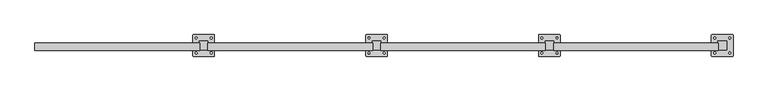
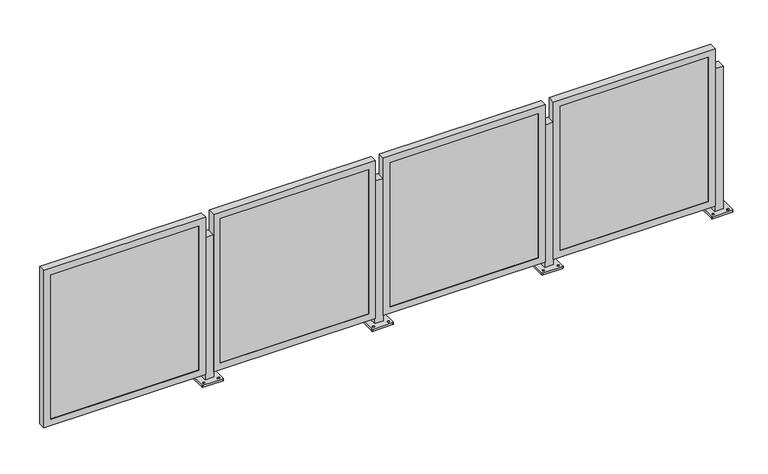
"""IFC4 building model written with IfcOpenShell, lengths in millimetres: railing geometry, Railing - Amico Architectural - Perforated Railing - Apex03."""

from ifc_helpers import new_model, si_unit, frame, origin, place, context, project, spatial, polyline, circle_curve, outline, extrude, faceted_brep, source, transform, mapped, element, save
from ifc_brep_helpers import plane_surface, cylinder_surface, revolved_surface, advanced_brep


def railing_f31c3002(model_context):
    return source(origin(), model_context, "Body", "SolidModel", [
        advanced_brep(
        [(-18869.5891671, -9669.5402105, 914.4), (-18869.5891671, -9720.3402105, 914.4), (-18818.7891671, -9720.3402105, 914.4), (-18818.7891671, -9669.5402105, 914.4), (-18907.6891672, -9755.2651694, 0.0), (-18907.6891672, -9634.6152515, 0.0), (-18904.5141391, -9631.4402233, 0.0), (-18783.8641951, -9631.4402233, 0.0), (-18780.6891669, -9634.6152515, 0.0), (-18780.6891669, -9755.2651694, 0.0), (-18783.8641951, -9758.4401976, 0.0), (-18904.5141391, -9758.4401976, 0.0), (-18888.6391546, -9744.9464651, 0.0), (-18888.6391546, -9733.8339526, 0.0), (-18888.6391655, -9656.0464607, 0.0), (-18888.6391655, -9644.9339791, 0.0), (-18799.7391536, -9744.9464636, 0.0), (-18799.7391536, -9733.8339529, 0.0), (-18799.7391646, -9656.0464592, 0.0), (-18799.7391646, -9644.9339794, 0.0), (-18869.5891671, -9669.5402105, 12.7), (-18869.5891671, -9720.3402105, 12.7), (-18818.7891671, -9720.3402105, 12.7), (-18818.7891671, -9669.5402105, 12.7), (-18907.6891672, -9755.2651694, 12.7), (-18904.5141391, -9758.4401976, 12.7), (-18783.8641951, -9758.4401976, 12.7), (-18780.6891669, -9755.2651694, 12.7), (-18780.6891669, -9634.6152515, 12.7), (-18783.8641951, -9631.4402233, 12.7), (-18904.5141391, -9631.4402233, 12.7), (-18907.6891672, -9634.6152515, 12.7), (-18888.6391546, -9744.9464651, 12.7), (-18888.6391546, -9733.8339526, 12.7), (-18888.6391655, -9656.0464607, 12.7), (-18888.6391655, -9644.9339791, 12.7), (-18799.7391536, -9744.9464636, 12.7), (-18799.7391536, -9733.8339529, 12.7), (-18799.7391646, -9656.0464592, 12.7), (-18799.7391646, -9644.9339794, 12.7)],
        [
            (0, 1),
            (1, 2),
            (2, 3),
            (3, 0),
            (4, 5),
            (5, 6, circle_curve(frame((-18904.5141391, -9634.6152515, 0.0), z_axis=(0.0, 0.0, -1.0), x_axis=(0.0, 1.0, 0.0)), 3.1750282)),
            (6, 7),
            (7, 8, circle_curve(frame((-18783.8641951, -9634.6152515, 0.0), z_axis=(0.0, 0.0, -1.0), x_axis=(0.0, 1.0, 0.0)), 3.1750282)),
            (8, 9),
            (9, 10, circle_curve(frame((-18783.8641951, -9755.2651694, 0.0), z_axis=(0.0, 0.0, -1.0), x_axis=(0.0, 1.0, 0.0)), 3.1750282)),
            (10, 11),
            (11, 4, circle_curve(frame((-18904.5141391, -9755.2651694, 0.0), z_axis=(0.0, 0.0, -1.0), x_axis=(0.0, 1.0, 0.0)), 3.1750282)),
            (12, 13, circle_curve(frame((-18888.6391546, -9739.3902089, 0.0), z_axis=(0.0, 0.0, 1.0), x_axis=(0.0, 1.0, 0.0)), 5.5562562)),
            (13, 12, circle_curve(frame((-18888.6391546, -9739.3902089, 0.0), z_axis=(0.0, 0.0, 1.0), x_axis=(0.0, 1.0, 0.0)), 5.5562562)),
            (14, 15, circle_curve(frame((-18888.6391655, -9650.4902199, 0.0), z_axis=(0.0, 0.0, 1.0), x_axis=(0.0, 1.0, 0.0)), 5.5562408)),
            (15, 14, circle_curve(frame((-18888.6391655, -9650.4902199, 0.0), z_axis=(0.0, 0.0, 1.0), x_axis=(0.0, 1.0, 0.0)), 5.5562408)),
            (16, 17, circle_curve(frame((-18799.7391536, -9739.3902082, 0.0), z_axis=(0.0, 0.0, 1.0), x_axis=(0.0, 1.0, 0.0)), 5.5562553)),
            (17, 16, circle_curve(frame((-18799.7391536, -9739.3902082, 0.0), z_axis=(0.0, 0.0, 1.0), x_axis=(0.0, 1.0, 0.0)), 5.5562553)),
            (18, 19, circle_curve(frame((-18799.7391646, -9650.4902193, 0.0), z_axis=(0.0, 0.0, 1.0), x_axis=(0.0, 1.0, 0.0)), 5.5562399)),
            (19, 18, circle_curve(frame((-18799.7391646, -9650.4902193, 0.0), z_axis=(0.0, 0.0, 1.0), x_axis=(0.0, 1.0, 0.0)), 5.5562399)),
            (0, 20),
            (20, 21),
            (21, 1),
            (21, 22),
            (22, 2),
            (22, 23),
            (23, 3),
            (23, 20),
            (24, 25, circle_curve(frame((-18904.5141391, -9755.2651694, 12.7), z_axis=(0.0, 0.0, 1.0), x_axis=(0.0, 1.0, 0.0)), 3.1750282)),
            (25, 26),
            (26, 27, circle_curve(frame((-18783.8641951, -9755.2651694, 12.7), z_axis=(0.0, 0.0, 1.0), x_axis=(0.0, 1.0, 0.0)), 3.1750282)),
            (27, 28),
            (28, 29, circle_curve(frame((-18783.8641951, -9634.6152515, 12.7), z_axis=(0.0, 0.0, 1.0), x_axis=(0.0, 1.0, 0.0)), 3.1750282)),
            (29, 30),
            (30, 31, circle_curve(frame((-18904.5141391, -9634.6152515, 12.7), z_axis=(0.0, 0.0, 1.0), x_axis=(0.0, 1.0, 0.0)), 3.1750282)),
            (31, 24),
            (32, 33, circle_curve(frame((-18888.6391546, -9739.3902089, 12.7), z_axis=(0.0, 0.0, -1.0), x_axis=(0.0, 1.0, 0.0)), 5.5562562)),
            (33, 32, circle_curve(frame((-18888.6391546, -9739.3902089, 12.7), z_axis=(0.0, 0.0, -1.0), x_axis=(0.0, 1.0, 0.0)), 5.5562562)),
            (34, 35, circle_curve(frame((-18888.6391655, -9650.4902199, 12.7), z_axis=(0.0, 0.0, -1.0), x_axis=(0.0, 1.0, 0.0)), 5.5562408)),
            (35, 34, circle_curve(frame((-18888.6391655, -9650.4902199, 12.7), z_axis=(0.0, 0.0, -1.0), x_axis=(0.0, 1.0, 0.0)), 5.5562408)),
            (36, 37, circle_curve(frame((-18799.7391536, -9739.3902082, 12.7), z_axis=(0.0, 0.0, -1.0), x_axis=(0.0, 1.0, 0.0)), 5.5562553)),
            (37, 36, circle_curve(frame((-18799.7391536, -9739.3902082, 12.7), z_axis=(0.0, 0.0, -1.0), x_axis=(0.0, 1.0, 0.0)), 5.5562553)),
            (38, 39, circle_curve(frame((-18799.7391646, -9650.4902193, 12.7), z_axis=(0.0, 0.0, -1.0), x_axis=(0.0, 1.0, 0.0)), 5.5562399)),
            (39, 38, circle_curve(frame((-18799.7391646, -9650.4902193, 12.7), z_axis=(0.0, 0.0, -1.0), x_axis=(0.0, 1.0, 0.0)), 5.5562399)),
            (24, 4),
            (11, 25),
            (10, 26),
            (9, 27),
            (8, 28),
            (7, 29),
            (6, 30),
            (5, 31),
            (32, 12),
            (13, 33),
            (34, 14),
            (15, 35),
            (36, 16),
            (17, 37),
            (38, 18),
            (19, 39),
        ],
        [
            plane_surface(frame((-18869.5891671, -9720.3402105, 914.4), z_axis=(0.0, 0.0, 1.0), x_axis=(0.0, -1.0, 0.0))),
            plane_surface(frame((-18869.5891671, -9720.3402105, 0.0), z_axis=(0.0, 0.0, -1.0), x_axis=(0.0, 1.0, 0.0))),
            plane_surface(frame((-18869.5891671, -9669.5402105, 914.4), z_axis=(-1.0, 0.0, 0.0), x_axis=(0.0, 0.0, -1.0))),
            plane_surface(frame((-18869.5891671, -9720.3402105, 914.4), z_axis=(0.0, -1.0, 0.0), x_axis=(0.0, 0.0, -1.0))),
            plane_surface(frame((-18818.7891671, -9720.3402105, 914.4), z_axis=(1.0, 0.0, 0.0), x_axis=(0.0, 0.0, -1.0))),
            plane_surface(frame((-18818.7891671, -9669.5402105, 914.4), z_axis=(0.0, 1.0, 0.0), x_axis=(0.0, 0.0, -1.0))),
            plane_surface(frame((-18904.5141391, -9752.0901413, 12.7), z_axis=(0.0, 0.0, 1.0), x_axis=(-1.0, 0.0, 0.0))),
            cylinder_surface(frame((-18904.5141391, -9755.2651694, 0.0), z_axis=(0.0, 0.0, 1.0), x_axis=(0.0, 1.0, 0.0)), 3.1750282),
            plane_surface(frame((-18904.5141391, -9758.4401976, 12.7), z_axis=(1.1945386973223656e-12, -1.0, 0.0), x_axis=(0.0, 0.0, -1.0))),
            cylinder_surface(frame((-18783.8641951, -9755.2651694, 0.0), z_axis=(0.0, 0.0, 1.0), x_axis=(0.0, 1.0, 0.0)), 3.1750282),
            plane_surface(frame((-18780.6891669, -9755.2651694, 12.7), z_axis=(1.0, 0.0, 0.0), x_axis=(0.0, 0.0, -1.0))),
            cylinder_surface(frame((-18783.8641951, -9634.6152515, 0.0), z_axis=(0.0, 0.0, 1.0), x_axis=(0.0, 1.0, 0.0)), 3.1750282),
            plane_surface(frame((-18783.8641951, -9631.4402233, 12.7), z_axis=(-1.1946088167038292e-12, 1.0, 0.0), x_axis=(0.0, 0.0, -1.0))),
            cylinder_surface(frame((-18904.5141391, -9634.6152515, 0.0), z_axis=(0.0, 0.0, 1.0), x_axis=(0.0, 1.0, 0.0)), 3.1750282),
            plane_surface(frame((-18907.6891672, -9634.6152515, 12.7), z_axis=(-1.0, 0.0, 0.0), x_axis=(0.0, 0.0, -1.0))),
            revolved_surface(polyline([(-18888.6391546, -9733.8339527, 0.0), (-18888.6391546, -9733.8339527, 12.7)]), (-18888.6391546, -9739.3902089, 0.0), (0.0, 0.0, -1.0)),
            revolved_surface(polyline([(-18888.6391655, -9644.9339791, 0.0), (-18888.6391655, -9644.9339791, 12.7)]), (-18888.6391655, -9650.4902199, 0.0), (0.0, 0.0, -1.0)),
            revolved_surface(polyline([(-18799.7391536, -9733.8339529, 0.0), (-18799.7391536, -9733.8339529, 12.7)]), (-18799.7391536, -9739.3902082, 0.0), (0.0, 0.0, -1.0)),
            revolved_surface(polyline([(-18799.7391646, -9644.9339794, 0.0), (-18799.7391646, -9644.9339794, 12.7)]), (-18799.7391646, -9650.4902193, 0.0), (0.0, 0.0, -1.0)),
        ],
        [
            (0, [[1, 2, 3, 4]]),
            (1, [[5, 6, 7, 8, 9, 10, 11, 12], [13, 14], [15, 16], [17, 18], [19, 20]]),
            (2, [[-1, 21, 22, 23]]),
            (3, [[-2, -23, 24, 25]]),
            (4, [[-3, -25, 26, 27]]),
            (5, [[-4, -27, 28, -21]]),
            (6, [[29, 30, 31, 32, 33, 34, 35, 36], [-22, -28, -26, -24], [37, 38], [39, 40], [41, 42], [43, 44]]),
            (7, [[-29, 45, -12, 46]]),
            (8, [[-30, -46, -11, 47]]),
            (9, [[-31, -47, -10, 48]]),
            (10, [[-32, -48, -9, 49]]),
            (11, [[-33, -49, -8, 50]]),
            (12, [[-34, -50, -7, 51]]),
            (13, [[-35, -51, -6, 52]]),
            (14, [[-36, -52, -5, -45]]),
            (15, [[-37, 53, -14, 54]]),
            (15, [[-38, -54, -13, -53]]),
            (16, [[-39, 55, -16, 56]]),
            (16, [[-40, -56, -15, -55]]),
            (17, [[-41, 57, -18, 58]]),
            (17, [[-42, -58, -17, -57]]),
            (18, [[-43, 59, -20, 60]]),
            (18, [[-44, -60, -19, -59]]),
        ],
    ),
        faceted_brep([(-19835.9936205, -9723.0834105, 47.625), (-18867.6186205, -9723.0834105, 47.625), (-18867.6186205, -9723.0834105, 1044.575), (-19835.9936205, -9723.0834105, 1044.575), (-19794.7186205, -9723.0834105, 1003.3), (-18908.8936205, -9723.0834105, 1003.3), (-18908.8936205, -9723.0834105, 88.9), (-19794.7186205, -9723.0834105, 88.9), (-19794.7186205, -9720.3402105, 1003.3), (-19794.7186205, -9720.3402105, 88.9), (-19835.9936205, -9679.2101139, 1044.575), (-19835.9936205, -9679.2101139, 47.625), (-19832.8186205, -9679.2101139, 1041.4), (-19832.8186205, -9720.3402105, 1041.4), (-19832.8186205, -9720.3402105, 50.8), (-19832.8186205, -9679.2101139, 50.8), (-18908.8936205, -9720.3402105, 88.9), (-18867.6186205, -9679.2101139, 47.625), (-18870.7936205, -9720.3402105, 50.8), (-18870.7936205, -9679.2101139, 50.8), (-18908.8936205, -9720.3402105, 1003.3), (-18867.6186205, -9679.2101139, 1044.575), (-18870.7936205, -9720.3402105, 1041.4), (-18870.7936205, -9679.2101139, 1041.4)], [[[0, 1, 2, 3], [4, 5, 6, 7]], [[8, 4, 7, 9]], [[3, 10, 11, 0]], [[12, 13, 14, 15]], [[9, 7, 6, 16]], [[0, 11, 17, 1]], [[15, 14, 18, 19]], [[16, 6, 5, 20]], [[1, 17, 21, 2]], [[19, 18, 22, 23]], [[20, 5, 4, 8]], [[10, 21, 17, 11], [15, 19, 23, 12]], [[2, 21, 10, 3]], [[13, 22, 18, 14], [9, 16, 20, 8]], [[23, 22, 13, 12]]]),
        extrude(outline(polyline([(-19832.8186205, -9710.8152105), (-18870.7936205, -9710.8152105), (-18870.7936205, -9720.3402105), (-19832.8186205, -9720.3402105), (-19832.8186205, -9710.8152105)])), frame((0.0, 0.0, 50.8), z_axis=(0.0, 0.0, 1.0), x_axis=(1.0, 0.0, 0.0)), (0.0, 0.0, 1.0), 990.6),
        advanced_brep(
        [(-19885.5891671, -9669.5402105, 914.4), (-19885.5891671, -9720.3402105, 914.4), (-19834.7891671, -9720.3402105, 914.4), (-19834.7891671, -9669.5402105, 914.4), (-19923.6891672, -9755.2651694, 0.0), (-19923.6891672, -9634.6152515, 0.0), (-19920.5141391, -9631.4402233, 0.0), (-19799.8641951, -9631.4402233, 0.0), (-19796.6891669, -9634.6152515, 0.0), (-19796.6891669, -9755.2651694, 0.0), (-19799.8641951, -9758.4401976, 0.0), (-19920.5141391, -9758.4401976, 0.0), (-19904.6391546, -9744.9464651, 0.0), (-19904.6391546, -9733.8339526, 0.0), (-19904.6391655, -9656.0464607, 0.0), (-19904.6391655, -9644.9339791, 0.0), (-19815.7391536, -9744.9464636, 0.0), (-19815.7391536, -9733.8339529, 0.0), (-19815.7391646, -9656.0464592, 0.0), (-19815.7391646, -9644.9339794, 0.0), (-19885.5891671, -9669.5402105, 12.7), (-19885.5891671, -9720.3402105, 12.7), (-19834.7891671, -9720.3402105, 12.7), (-19834.7891671, -9669.5402105, 12.7), (-19923.6891672, -9755.2651694, 12.7), (-19920.5141391, -9758.4401976, 12.7), (-19799.8641951, -9758.4401976, 12.7), (-19796.6891669, -9755.2651694, 12.7), (-19796.6891669, -9634.6152515, 12.7), (-19799.8641951, -9631.4402233, 12.7), (-19920.5141391, -9631.4402233, 12.7), (-19923.6891672, -9634.6152515, 12.7), (-19904.6391546, -9744.9464651, 12.7), (-19904.6391546, -9733.8339526, 12.7), (-19904.6391655, -9656.0464607, 12.7), (-19904.6391655, -9644.9339791, 12.7), (-19815.7391536, -9744.9464636, 12.7), (-19815.7391536, -9733.8339529, 12.7), (-19815.7391646, -9656.0464592, 12.7), (-19815.7391646, -9644.9339794, 12.7)],
        [
            (0, 1),
            (1, 2),
            (2, 3),
            (3, 0),
            (4, 5),
            (5, 6, circle_curve(frame((-19920.5141391, -9634.6152515, 0.0), z_axis=(0.0, 0.0, -1.0), x_axis=(0.0, 1.0, 0.0)), 3.1750282)),
            (6, 7),
            (7, 8, circle_curve(frame((-19799.8641951, -9634.6152515, 0.0), z_axis=(0.0, 0.0, -1.0), x_axis=(0.0, 1.0, 0.0)), 3.1750282)),
            (8, 9),
            (9, 10, circle_curve(frame((-19799.8641951, -9755.2651694, 0.0), z_axis=(0.0, 0.0, -1.0), x_axis=(0.0, 1.0, 0.0)), 3.1750282)),
            (10, 11),
            (11, 4, circle_curve(frame((-19920.5141391, -9755.2651694, 0.0), z_axis=(0.0, 0.0, -1.0), x_axis=(0.0, 1.0, 0.0)), 3.1750282)),
            (12, 13, circle_curve(frame((-19904.6391546, -9739.3902089, 0.0), z_axis=(0.0, 0.0, 1.0), x_axis=(0.0, 1.0, 0.0)), 5.5562562)),
            (13, 12, circle_curve(frame((-19904.6391546, -9739.3902089, 0.0), z_axis=(0.0, 0.0, 1.0), x_axis=(0.0, 1.0, 0.0)), 5.5562562)),
            (14, 15, circle_curve(frame((-19904.6391655, -9650.4902199, 0.0), z_axis=(0.0, 0.0, 1.0), x_axis=(0.0, 1.0, 0.0)), 5.5562408)),
            (15, 14, circle_curve(frame((-19904.6391655, -9650.4902199, 0.0), z_axis=(0.0, 0.0, 1.0), x_axis=(0.0, 1.0, 0.0)), 5.5562408)),
            (16, 17, circle_curve(frame((-19815.7391536, -9739.3902082, 0.0), z_axis=(0.0, 0.0, 1.0), x_axis=(0.0, 1.0, 0.0)), 5.5562553)),
            (17, 16, circle_curve(frame((-19815.7391536, -9739.3902082, 0.0), z_axis=(0.0, 0.0, 1.0), x_axis=(0.0, 1.0, 0.0)), 5.5562553)),
            (18, 19, circle_curve(frame((-19815.7391646, -9650.4902193, 0.0), z_axis=(0.0, 0.0, 1.0), x_axis=(0.0, 1.0, 0.0)), 5.5562399)),
            (19, 18, circle_curve(frame((-19815.7391646, -9650.4902193, 0.0), z_axis=(0.0, 0.0, 1.0), x_axis=(0.0, 1.0, 0.0)), 5.5562399)),
            (0, 20),
            (20, 21),
            (21, 1),
            (21, 22),
            (22, 2),
            (22, 23),
            (23, 3),
            (23, 20),
            (24, 25, circle_curve(frame((-19920.5141391, -9755.2651694, 12.7), z_axis=(0.0, 0.0, 1.0), x_axis=(0.0, 1.0, 0.0)), 3.1750282)),
            (25, 26),
            (26, 27, circle_curve(frame((-19799.8641951, -9755.2651694, 12.7), z_axis=(0.0, 0.0, 1.0), x_axis=(0.0, 1.0, 0.0)), 3.1750282)),
            (27, 28),
            (28, 29, circle_curve(frame((-19799.8641951, -9634.6152515, 12.7), z_axis=(0.0, 0.0, 1.0), x_axis=(0.0, 1.0, 0.0)), 3.1750282)),
            (29, 30),
            (30, 31, circle_curve(frame((-19920.5141391, -9634.6152515, 12.7), z_axis=(0.0, 0.0, 1.0), x_axis=(0.0, 1.0, 0.0)), 3.1750282)),
            (31, 24),
            (32, 33, circle_curve(frame((-19904.6391546, -9739.3902089, 12.7), z_axis=(0.0, 0.0, -1.0), x_axis=(0.0, 1.0, 0.0)), 5.5562562)),
            (33, 32, circle_curve(frame((-19904.6391546, -9739.3902089, 12.7), z_axis=(0.0, 0.0, -1.0), x_axis=(0.0, 1.0, 0.0)), 5.5562562)),
            (34, 35, circle_curve(frame((-19904.6391655, -9650.4902199, 12.7), z_axis=(0.0, 0.0, -1.0), x_axis=(0.0, 1.0, 0.0)), 5.5562408)),
            (35, 34, circle_curve(frame((-19904.6391655, -9650.4902199, 12.7), z_axis=(0.0, 0.0, -1.0), x_axis=(0.0, 1.0, 0.0)), 5.5562408)),
            (36, 37, circle_curve(frame((-19815.7391536, -9739.3902082, 12.7), z_axis=(0.0, 0.0, -1.0), x_axis=(0.0, 1.0, 0.0)), 5.5562553)),
            (37, 36, circle_curve(frame((-19815.7391536, -9739.3902082, 12.7), z_axis=(0.0, 0.0, -1.0), x_axis=(0.0, 1.0, 0.0)), 5.5562553)),
            (38, 39, circle_curve(frame((-19815.7391646, -9650.4902193, 12.7), z_axis=(0.0, 0.0, -1.0), x_axis=(0.0, 1.0, 0.0)), 5.5562399)),
            (39, 38, circle_curve(frame((-19815.7391646, -9650.4902193, 12.7), z_axis=(0.0, 0.0, -1.0), x_axis=(0.0, 1.0, 0.0)), 5.5562399)),
            (24, 4),
            (11, 25),
            (10, 26),
            (9, 27),
            (8, 28),
            (7, 29),
            (6, 30),
            (5, 31),
            (32, 12),
            (13, 33),
            (34, 14),
            (15, 35),
            (36, 16),
            (17, 37),
            (38, 18),
            (19, 39),
        ],
        [
            plane_surface(frame((-19885.5891671, -9720.3402105, 914.4), z_axis=(0.0, 0.0, 1.0), x_axis=(0.0, -1.0, 0.0))),
            plane_surface(frame((-19885.5891671, -9720.3402105, 0.0), z_axis=(0.0, 0.0, -1.0), x_axis=(0.0, 1.0, 0.0))),
            plane_surface(frame((-19885.5891671, -9669.5402105, 914.4), z_axis=(-1.0, 0.0, 0.0), x_axis=(0.0, 0.0, -1.0))),
            plane_surface(frame((-19885.5891671, -9720.3402105, 914.4), z_axis=(0.0, -1.0, 0.0), x_axis=(0.0, 0.0, -1.0))),
            plane_surface(frame((-19834.7891671, -9720.3402105, 914.4), z_axis=(1.0, 0.0, 0.0), x_axis=(0.0, 0.0, -1.0))),
            plane_surface(frame((-19834.7891671, -9669.5402105, 914.4), z_axis=(0.0, 1.0, 0.0), x_axis=(0.0, 0.0, -1.0))),
            plane_surface(frame((-19920.5141391, -9752.0901413, 12.7), z_axis=(0.0, 0.0, 1.0), x_axis=(-1.0, 0.0, 0.0))),
            cylinder_surface(frame((-19920.5141391, -9755.2651694, 0.0), z_axis=(0.0, 0.0, 1.0), x_axis=(0.0, 1.0, 0.0)), 3.1750282),
            plane_surface(frame((-19920.5141391, -9758.4401976, 12.7), z_axis=(1.1945386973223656e-12, -1.0, 0.0), x_axis=(0.0, 0.0, -1.0))),
            cylinder_surface(frame((-19799.8641951, -9755.2651694, 0.0), z_axis=(0.0, 0.0, 1.0), x_axis=(0.0, 1.0, 0.0)), 3.1750282),
            plane_surface(frame((-19796.6891669, -9755.2651694, 12.7), z_axis=(1.0, 0.0, 0.0), x_axis=(0.0, 0.0, -1.0))),
            cylinder_surface(frame((-19799.8641951, -9634.6152515, 0.0), z_axis=(0.0, 0.0, 1.0), x_axis=(0.0, 1.0, 0.0)), 3.1750282),
            plane_surface(frame((-19799.8641951, -9631.4402233, 12.7), z_axis=(-1.1946088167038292e-12, 1.0, 0.0), x_axis=(0.0, 0.0, -1.0))),
            cylinder_surface(frame((-19920.5141391, -9634.6152515, 0.0), z_axis=(0.0, 0.0, 1.0), x_axis=(0.0, 1.0, 0.0)), 3.1750282),
            plane_surface(frame((-19923.6891672, -9634.6152515, 12.7), z_axis=(-1.0, 0.0, 0.0), x_axis=(0.0, 0.0, -1.0))),
            revolved_surface(polyline([(-19904.6391546, -9733.8339527, 0.0), (-19904.6391546, -9733.8339527, 12.7)]), (-19904.6391546, -9739.3902089, 0.0), (0.0, 0.0, -1.0)),
            revolved_surface(polyline([(-19904.6391655, -9644.9339791, 0.0), (-19904.6391655, -9644.9339791, 12.7)]), (-19904.6391655, -9650.4902199, 0.0), (0.0, 0.0, -1.0)),
            revolved_surface(polyline([(-19815.7391536, -9733.8339529, 0.0), (-19815.7391536, -9733.8339529, 12.7)]), (-19815.7391536, -9739.3902082, 0.0), (0.0, 0.0, -1.0)),
            revolved_surface(polyline([(-19815.7391646, -9644.9339794, 0.0), (-19815.7391646, -9644.9339794, 12.7)]), (-19815.7391646, -9650.4902193, 0.0), (0.0, 0.0, -1.0)),
        ],
        [
            (0, [[1, 2, 3, 4]]),
            (1, [[5, 6, 7, 8, 9, 10, 11, 12], [13, 14], [15, 16], [17, 18], [19, 20]]),
            (2, [[-1, 21, 22, 23]]),
            (3, [[-2, -23, 24, 25]]),
            (4, [[-3, -25, 26, 27]]),
            (5, [[-4, -27, 28, -21]]),
            (6, [[29, 30, 31, 32, 33, 34, 35, 36], [-22, -28, -26, -24], [37, 38], [39, 40], [41, 42], [43, 44]]),
            (7, [[-29, 45, -12, 46]]),
            (8, [[-30, -46, -11, 47]]),
            (9, [[-31, -47, -10, 48]]),
            (10, [[-32, -48, -9, 49]]),
            (11, [[-33, -49, -8, 50]]),
            (12, [[-34, -50, -7, 51]]),
            (13, [[-35, -51, -6, 52]]),
            (14, [[-36, -52, -5, -45]]),
            (15, [[-37, 53, -14, 54]]),
            (15, [[-38, -54, -13, -53]]),
            (16, [[-39, 55, -16, 56]]),
            (16, [[-40, -56, -15, -55]]),
            (17, [[-41, 57, -18, 58]]),
            (17, [[-42, -58, -17, -57]]),
            (18, [[-43, 59, -20, 60]]),
            (18, [[-44, -60, -19, -59]]),
        ],
    ),
        faceted_brep([(-20851.9936205, -9723.0834105, 47.625), (-19883.6186205, -9723.0834105, 47.625), (-19883.6186205, -9723.0834105, 1044.575), (-20851.9936205, -9723.0834105, 1044.575), (-20810.7186205, -9723.0834105, 1003.3), (-19924.8936205, -9723.0834105, 1003.3), (-19924.8936205, -9723.0834105, 88.9), (-20810.7186205, -9723.0834105, 88.9), (-20810.7186205, -9720.3402105, 1003.3), (-20810.7186205, -9720.3402105, 88.9), (-20851.9936205, -9679.2101139, 1044.575), (-20851.9936205, -9679.2101139, 47.625), (-20848.8186205, -9679.2101139, 1041.4), (-20848.8186205, -9720.3402105, 1041.4), (-20848.8186205, -9720.3402105, 50.8), (-20848.8186205, -9679.2101139, 50.8), (-19924.8936205, -9720.3402105, 88.9), (-19883.6186205, -9679.2101139, 47.625), (-19886.7936205, -9720.3402105, 50.8), (-19886.7936205, -9679.2101139, 50.8), (-19924.8936205, -9720.3402105, 1003.3), (-19883.6186205, -9679.2101139, 1044.575), (-19886.7936205, -9720.3402105, 1041.4), (-19886.7936205, -9679.2101139, 1041.4)], [[[0, 1, 2, 3], [4, 5, 6, 7]], [[8, 4, 7, 9]], [[3, 10, 11, 0]], [[12, 13, 14, 15]], [[9, 7, 6, 16]], [[0, 11, 17, 1]], [[15, 14, 18, 19]], [[16, 6, 5, 20]], [[1, 17, 21, 2]], [[19, 18, 22, 23]], [[20, 5, 4, 8]], [[10, 21, 17, 11], [15, 19, 23, 12]], [[2, 21, 10, 3]], [[13, 22, 18, 14], [9, 16, 20, 8]], [[23, 22, 13, 12]]]),
        extrude(outline(polyline([(-20848.8186205, -9710.8152105), (-19886.7936205, -9710.8152105), (-19886.7936205, -9720.3402105), (-20848.8186205, -9720.3402105), (-20848.8186205, -9710.8152105)])), frame((0.0, 0.0, 50.8), z_axis=(0.0, 0.0, 1.0), x_axis=(1.0, 0.0, 0.0)), (0.0, 0.0, 1.0), 990.6),
        advanced_brep(
        [(-20901.5891671, -9669.5402105, 914.4), (-20901.5891671, -9720.3402105, 914.4), (-20850.7891671, -9720.3402105, 914.4), (-20850.7891671, -9669.5402105, 914.4), (-20939.6891672, -9755.2651694, 0.0), (-20939.6891672, -9634.6152515, 0.0), (-20936.5141391, -9631.4402233, 0.0), (-20815.8641951, -9631.4402233, 0.0), (-20812.6891669, -9634.6152515, 0.0), (-20812.6891669, -9755.2651694, 0.0), (-20815.8641951, -9758.4401976, 0.0), (-20936.5141391, -9758.4401976, 0.0), (-20920.6391546, -9744.9464651, 0.0), (-20920.6391546, -9733.8339526, 0.0), (-20920.6391655, -9656.0464607, 0.0), (-20920.6391655, -9644.9339791, 0.0), (-20831.7391536, -9744.9464636, 0.0), (-20831.7391536, -9733.8339529, 0.0), (-20831.7391646, -9656.0464592, 0.0), (-20831.7391646, -9644.9339794, 0.0), (-20901.5891671, -9669.5402105, 12.7), (-20901.5891671, -9720.3402105, 12.7), (-20850.7891671, -9720.3402105, 12.7), (-20850.7891671, -9669.5402105, 12.7), (-20939.6891672, -9755.2651694, 12.7), (-20936.5141391, -9758.4401976, 12.7), (-20815.8641951, -9758.4401976, 12.7), (-20812.6891669, -9755.2651694, 12.7), (-20812.6891669, -9634.6152515, 12.7), (-20815.8641951, -9631.4402233, 12.7), (-20936.5141391, -9631.4402233, 12.7), (-20939.6891672, -9634.6152515, 12.7), (-20920.6391546, -9744.9464651, 12.7), (-20920.6391546, -9733.8339526, 12.7), (-20920.6391655, -9656.0464607, 12.7), (-20920.6391655, -9644.9339791, 12.7), (-20831.7391536, -9744.9464636, 12.7), (-20831.7391536, -9733.8339529, 12.7), (-20831.7391646, -9656.0464592, 12.7), (-20831.7391646, -9644.9339794, 12.7)],
        [
            (0, 1),
            (1, 2),
            (2, 3),
            (3, 0),
            (4, 5),
            (5, 6, circle_curve(frame((-20936.5141391, -9634.6152515, 0.0), z_axis=(0.0, 0.0, -1.0), x_axis=(0.0, 1.0, 0.0)), 3.1750282)),
            (6, 7),
            (7, 8, circle_curve(frame((-20815.8641951, -9634.6152515, 0.0), z_axis=(0.0, 0.0, -1.0), x_axis=(0.0, 1.0, 0.0)), 3.1750282)),
            (8, 9),
            (9, 10, circle_curve(frame((-20815.8641951, -9755.2651694, 0.0), z_axis=(0.0, 0.0, -1.0), x_axis=(0.0, 1.0, 0.0)), 3.1750282)),
            (10, 11),
            (11, 4, circle_curve(frame((-20936.5141391, -9755.2651694, 0.0), z_axis=(0.0, 0.0, -1.0), x_axis=(0.0, 1.0, 0.0)), 3.1750282)),
            (12, 13, circle_curve(frame((-20920.6391546, -9739.3902089, 0.0), z_axis=(0.0, 0.0, 1.0), x_axis=(0.0, 1.0, 0.0)), 5.5562562)),
            (13, 12, circle_curve(frame((-20920.6391546, -9739.3902089, 0.0), z_axis=(0.0, 0.0, 1.0), x_axis=(0.0, 1.0, 0.0)), 5.5562562)),
            (14, 15, circle_curve(frame((-20920.6391655, -9650.4902199, 0.0), z_axis=(0.0, 0.0, 1.0), x_axis=(0.0, 1.0, 0.0)), 5.5562408)),
            (15, 14, circle_curve(frame((-20920.6391655, -9650.4902199, 0.0), z_axis=(0.0, 0.0, 1.0), x_axis=(0.0, 1.0, 0.0)), 5.5562408)),
            (16, 17, circle_curve(frame((-20831.7391536, -9739.3902082, 0.0), z_axis=(0.0, 0.0, 1.0), x_axis=(0.0, 1.0, 0.0)), 5.5562553)),
            (17, 16, circle_curve(frame((-20831.7391536, -9739.3902082, 0.0), z_axis=(0.0, 0.0, 1.0), x_axis=(0.0, 1.0, 0.0)), 5.5562553)),
            (18, 19, circle_curve(frame((-20831.7391646, -9650.4902193, 0.0), z_axis=(0.0, 0.0, 1.0), x_axis=(0.0, 1.0, 0.0)), 5.5562399)),
            (19, 18, circle_curve(frame((-20831.7391646, -9650.4902193, 0.0), z_axis=(0.0, 0.0, 1.0), x_axis=(0.0, 1.0, 0.0)), 5.5562399)),
            (0, 20),
            (20, 21),
            (21, 1),
            (21, 22),
            (22, 2),
            (22, 23),
            (23, 3),
            (23, 20),
            (24, 25, circle_curve(frame((-20936.5141391, -9755.2651694, 12.7), z_axis=(0.0, 0.0, 1.0), x_axis=(0.0, 1.0, 0.0)), 3.1750282)),
            (25, 26),
            (26, 27, circle_curve(frame((-20815.8641951, -9755.2651694, 12.7), z_axis=(0.0, 0.0, 1.0), x_axis=(0.0, 1.0, 0.0)), 3.1750282)),
            (27, 28),
            (28, 29, circle_curve(frame((-20815.8641951, -9634.6152515, 12.7), z_axis=(0.0, 0.0, 1.0), x_axis=(0.0, 1.0, 0.0)), 3.1750282)),
            (29, 30),
            (30, 31, circle_curve(frame((-20936.5141391, -9634.6152515, 12.7), z_axis=(0.0, 0.0, 1.0), x_axis=(0.0, 1.0, 0.0)), 3.1750282)),
            (31, 24),
            (32, 33, circle_curve(frame((-20920.6391546, -9739.3902089, 12.7), z_axis=(0.0, 0.0, -1.0), x_axis=(0.0, 1.0, 0.0)), 5.5562562)),
            (33, 32, circle_curve(frame((-20920.6391546, -9739.3902089, 12.7), z_axis=(0.0, 0.0, -1.0), x_axis=(0.0, 1.0, 0.0)), 5.5562562)),
            (34, 35, circle_curve(frame((-20920.6391655, -9650.4902199, 12.7), z_axis=(0.0, 0.0, -1.0), x_axis=(0.0, 1.0, 0.0)), 5.5562408)),
            (35, 34, circle_curve(frame((-20920.6391655, -9650.4902199, 12.7), z_axis=(0.0, 0.0, -1.0), x_axis=(0.0, 1.0, 0.0)), 5.5562408)),
            (36, 37, circle_curve(frame((-20831.7391536, -9739.3902082, 12.7), z_axis=(0.0, 0.0, -1.0), x_axis=(0.0, 1.0, 0.0)), 5.5562553)),
            (37, 36, circle_curve(frame((-20831.7391536, -9739.3902082, 12.7), z_axis=(0.0, 0.0, -1.0), x_axis=(0.0, 1.0, 0.0)), 5.5562553)),
            (38, 39, circle_curve(frame((-20831.7391646, -9650.4902193, 12.7), z_axis=(0.0, 0.0, -1.0), x_axis=(0.0, 1.0, 0.0)), 5.5562399)),
            (39, 38, circle_curve(frame((-20831.7391646, -9650.4902193, 12.7), z_axis=(0.0, 0.0, -1.0), x_axis=(0.0, 1.0, 0.0)), 5.5562399)),
            (24, 4),
            (11, 25),
            (10, 26),
            (9, 27),
            (8, 28),
            (7, 29),
            (6, 30),
            (5, 31),
            (32, 12),
            (13, 33),
            (34, 14),
            (15, 35),
            (36, 16),
            (17, 37),
            (38, 18),
            (19, 39),
        ],
        [
            plane_surface(frame((-20901.5891671, -9720.3402105, 914.4), z_axis=(0.0, 0.0, 1.0), x_axis=(0.0, -1.0, 0.0))),
            plane_surface(frame((-20901.5891671, -9720.3402105, 0.0), z_axis=(0.0, 0.0, -1.0), x_axis=(0.0, 1.0, 0.0))),
            plane_surface(frame((-20901.5891671, -9669.5402105, 914.4), z_axis=(-1.0, 0.0, 0.0), x_axis=(0.0, 0.0, -1.0))),
            plane_surface(frame((-20901.5891671, -9720.3402105, 914.4), z_axis=(0.0, -1.0, 0.0), x_axis=(0.0, 0.0, -1.0))),
            plane_surface(frame((-20850.7891671, -9720.3402105, 914.4), z_axis=(1.0, 0.0, 0.0), x_axis=(0.0, 0.0, -1.0))),
            plane_surface(frame((-20850.7891671, -9669.5402105, 914.4), z_axis=(0.0, 1.0, 0.0), x_axis=(0.0, 0.0, -1.0))),
            plane_surface(frame((-20936.5141391, -9752.0901413, 12.7), z_axis=(0.0, 0.0, 1.0), x_axis=(-1.0, 0.0, 0.0))),
            cylinder_surface(frame((-20936.5141391, -9755.2651694, 0.0), z_axis=(0.0, 0.0, 1.0), x_axis=(0.0, 1.0, 0.0)), 3.1750282),
            plane_surface(frame((-20936.5141391, -9758.4401976, 12.7), z_axis=(1.1945386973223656e-12, -1.0, 0.0), x_axis=(0.0, 0.0, -1.0))),
            cylinder_surface(frame((-20815.8641951, -9755.2651694, 0.0), z_axis=(0.0, 0.0, 1.0), x_axis=(0.0, 1.0, 0.0)), 3.1750282),
            plane_surface(frame((-20812.6891669, -9755.2651694, 12.7), z_axis=(1.0, 0.0, 0.0), x_axis=(0.0, 0.0, -1.0))),
            cylinder_surface(frame((-20815.8641951, -9634.6152515, 0.0), z_axis=(0.0, 0.0, 1.0), x_axis=(0.0, 1.0, 0.0)), 3.1750282),
            plane_surface(frame((-20815.8641951, -9631.4402233, 12.7), z_axis=(-1.1946088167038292e-12, 1.0, 0.0), x_axis=(0.0, 0.0, -1.0))),
            cylinder_surface(frame((-20936.5141391, -9634.6152515, 0.0), z_axis=(0.0, 0.0, 1.0), x_axis=(0.0, 1.0, 0.0)), 3.1750282),
            plane_surface(frame((-20939.6891672, -9634.6152515, 12.7), z_axis=(-1.0, 0.0, 0.0), x_axis=(0.0, 0.0, -1.0))),
            revolved_surface(polyline([(-20920.6391546, -9733.8339527, 0.0), (-20920.6391546, -9733.8339527, 12.7)]), (-20920.6391546, -9739.3902089, 0.0), (0.0, 0.0, -1.0)),
            revolved_surface(polyline([(-20920.6391655, -9644.9339791, 0.0), (-20920.6391655, -9644.9339791, 12.7)]), (-20920.6391655, -9650.4902199, 0.0), (0.0, 0.0, -1.0)),
            revolved_surface(polyline([(-20831.7391536, -9733.8339529, 0.0), (-20831.7391536, -9733.8339529, 12.7)]), (-20831.7391536, -9739.3902082, 0.0), (0.0, 0.0, -1.0)),
            revolved_surface(polyline([(-20831.7391646, -9644.9339794, 0.0), (-20831.7391646, -9644.9339794, 12.7)]), (-20831.7391646, -9650.4902193, 0.0), (0.0, 0.0, -1.0)),
        ],
        [
            (0, [[1, 2, 3, 4]]),
            (1, [[5, 6, 7, 8, 9, 10, 11, 12], [13, 14], [15, 16], [17, 18], [19, 20]]),
            (2, [[-1, 21, 22, 23]]),
            (3, [[-2, -23, 24, 25]]),
            (4, [[-3, -25, 26, 27]]),
            (5, [[-4, -27, 28, -21]]),
            (6, [[29, 30, 31, 32, 33, 34, 35, 36], [-22, -28, -26, -24], [37, 38], [39, 40], [41, 42], [43, 44]]),
            (7, [[-29, 45, -12, 46]]),
            (8, [[-30, -46, -11, 47]]),
            (9, [[-31, -47, -10, 48]]),
            (10, [[-32, -48, -9, 49]]),
            (11, [[-33, -49, -8, 50]]),
            (12, [[-34, -50, -7, 51]]),
            (13, [[-35, -51, -6, 52]]),
            (14, [[-36, -52, -5, -45]]),
            (15, [[-37, 53, -14, 54]]),
            (15, [[-38, -54, -13, -53]]),
            (16, [[-39, 55, -16, 56]]),
            (16, [[-40, -56, -15, -55]]),
            (17, [[-41, 57, -18, 58]]),
            (17, [[-42, -58, -17, -57]]),
            (18, [[-43, 59, -20, 60]]),
            (18, [[-44, -60, -19, -59]]),
        ],
    ),
        faceted_brep([(-21867.9936205, -9723.0834105, 47.625), (-20899.6186205, -9723.0834105, 47.625), (-20899.6186205, -9723.0834105, 1044.575), (-21867.9936205, -9723.0834105, 1044.575), (-21826.7186205, -9723.0834105, 1003.3), (-20940.8936205, -9723.0834105, 1003.3), (-20940.8936205, -9723.0834105, 88.9), (-21826.7186205, -9723.0834105, 88.9), (-21826.7186205, -9720.3402105, 1003.3), (-21826.7186205, -9720.3402105, 88.9), (-21867.9936205, -9679.2101139, 1044.575), (-21867.9936205, -9679.2101139, 47.625), (-21864.8186205, -9679.2101139, 1041.4), (-21864.8186205, -9720.3402105, 1041.4), (-21864.8186205, -9720.3402105, 50.8), (-21864.8186205, -9679.2101139, 50.8), (-20940.8936205, -9720.3402105, 88.9), (-20899.6186205, -9679.2101139, 47.625), (-20902.7936205, -9720.3402105, 50.8), (-20902.7936205, -9679.2101139, 50.8), (-20940.8936205, -9720.3402105, 1003.3), (-20899.6186205, -9679.2101139, 1044.575), (-20902.7936205, -9720.3402105, 1041.4), (-20902.7936205, -9679.2101139, 1041.4)], [[[0, 1, 2, 3], [4, 5, 6, 7]], [[8, 4, 7, 9]], [[3, 10, 11, 0]], [[12, 13, 14, 15]], [[9, 7, 6, 16]], [[0, 11, 17, 1]], [[15, 14, 18, 19]], [[16, 6, 5, 20]], [[1, 17, 21, 2]], [[19, 18, 22, 23]], [[20, 5, 4, 8]], [[10, 21, 17, 11], [15, 19, 23, 12]], [[2, 21, 10, 3]], [[13, 22, 18, 14], [9, 16, 20, 8]], [[23, 22, 13, 12]]]),
        extrude(outline(polyline([(-21864.8186205, -9710.8152105), (-20902.7936205, -9710.8152105), (-20902.7936205, -9720.3402105), (-21864.8186205, -9720.3402105), (-21864.8186205, -9710.8152105)])), frame((0.0, 0.0, 50.8), z_axis=(0.0, 0.0, 1.0), x_axis=(1.0, 0.0, 0.0)), (0.0, 0.0, 1.0), 990.6),
        advanced_brep(
        [(-21917.5891671, -9669.5402105, 914.4), (-21917.5891671, -9720.3402105, 914.4), (-21866.7891671, -9720.3402105, 914.4), (-21866.7891671, -9669.5402105, 914.4), (-21955.6891672, -9755.2651694, 0.0), (-21955.6891672, -9634.6152515, 0.0), (-21952.5141391, -9631.4402233, 0.0), (-21831.8641951, -9631.4402233, 0.0), (-21828.6891669, -9634.6152515, 0.0), (-21828.6891669, -9755.2651694, 0.0), (-21831.8641951, -9758.4401976, 0.0), (-21952.5141391, -9758.4401976, 0.0), (-21936.6391546, -9744.9464651, 0.0), (-21936.6391546, -9733.8339526, 0.0), (-21936.6391655, -9656.0464607, 0.0), (-21936.6391655, -9644.9339791, 0.0), (-21847.7391536, -9744.9464636, 0.0), (-21847.7391536, -9733.8339529, 0.0), (-21847.7391646, -9656.0464592, 0.0), (-21847.7391646, -9644.9339794, 0.0), (-21917.5891671, -9669.5402105, 12.7), (-21917.5891671, -9720.3402105, 12.7), (-21866.7891671, -9720.3402105, 12.7), (-21866.7891671, -9669.5402105, 12.7), (-21955.6891672, -9755.2651694, 12.7), (-21952.5141391, -9758.4401976, 12.7), (-21831.8641951, -9758.4401976, 12.7), (-21828.6891669, -9755.2651694, 12.7), (-21828.6891669, -9634.6152515, 12.7), (-21831.8641951, -9631.4402233, 12.7), (-21952.5141391, -9631.4402233, 12.7), (-21955.6891672, -9634.6152515, 12.7), (-21936.6391546, -9744.9464651, 12.7), (-21936.6391546, -9733.8339526, 12.7), (-21936.6391655, -9656.0464607, 12.7), (-21936.6391655, -9644.9339791, 12.7), (-21847.7391536, -9744.9464636, 12.7), (-21847.7391536, -9733.8339529, 12.7), (-21847.7391646, -9656.0464592, 12.7), (-21847.7391646, -9644.9339794, 12.7)],
        [
            (0, 1),
            (1, 2),
            (2, 3),
            (3, 0),
            (4, 5),
            (5, 6, circle_curve(frame((-21952.5141391, -9634.6152515, 0.0), z_axis=(0.0, 0.0, -1.0), x_axis=(0.0, 1.0, 0.0)), 3.1750282)),
            (6, 7),
            (7, 8, circle_curve(frame((-21831.8641951, -9634.6152515, 0.0), z_axis=(0.0, 0.0, -1.0), x_axis=(0.0, 1.0, 0.0)), 3.1750282)),
            (8, 9),
            (9, 10, circle_curve(frame((-21831.8641951, -9755.2651694, 0.0), z_axis=(0.0, 0.0, -1.0), x_axis=(0.0, 1.0, 0.0)), 3.1750282)),
            (10, 11),
            (11, 4, circle_curve(frame((-21952.5141391, -9755.2651694, 0.0), z_axis=(0.0, 0.0, -1.0), x_axis=(0.0, 1.0, 0.0)), 3.1750282)),
            (12, 13, circle_curve(frame((-21936.6391546, -9739.3902089, 0.0), z_axis=(0.0, 0.0, 1.0), x_axis=(0.0, 1.0, 0.0)), 5.5562562)),
            (13, 12, circle_curve(frame((-21936.6391546, -9739.3902089, 0.0), z_axis=(0.0, 0.0, 1.0), x_axis=(0.0, 1.0, 0.0)), 5.5562562)),
            (14, 15, circle_curve(frame((-21936.6391655, -9650.4902199, 0.0), z_axis=(0.0, 0.0, 1.0), x_axis=(0.0, 1.0, 0.0)), 5.5562408)),
            (15, 14, circle_curve(frame((-21936.6391655, -9650.4902199, 0.0), z_axis=(0.0, 0.0, 1.0), x_axis=(0.0, 1.0, 0.0)), 5.5562408)),
            (16, 17, circle_curve(frame((-21847.7391536, -9739.3902082, 0.0), z_axis=(0.0, 0.0, 1.0), x_axis=(0.0, 1.0, 0.0)), 5.5562553)),
            (17, 16, circle_curve(frame((-21847.7391536, -9739.3902082, 0.0), z_axis=(0.0, 0.0, 1.0), x_axis=(0.0, 1.0, 0.0)), 5.5562553)),
            (18, 19, circle_curve(frame((-21847.7391646, -9650.4902193, 0.0), z_axis=(0.0, 0.0, 1.0), x_axis=(0.0, 1.0, 0.0)), 5.5562399)),
            (19, 18, circle_curve(frame((-21847.7391646, -9650.4902193, 0.0), z_axis=(0.0, 0.0, 1.0), x_axis=(0.0, 1.0, 0.0)), 5.5562399)),
            (0, 20),
            (20, 21),
            (21, 1),
            (21, 22),
            (22, 2),
            (22, 23),
            (23, 3),
            (23, 20),
            (24, 25, circle_curve(frame((-21952.5141391, -9755.2651694, 12.7), z_axis=(0.0, 0.0, 1.0), x_axis=(0.0, 1.0, 0.0)), 3.1750282)),
            (25, 26),
            (26, 27, circle_curve(frame((-21831.8641951, -9755.2651694, 12.7), z_axis=(0.0, 0.0, 1.0), x_axis=(0.0, 1.0, 0.0)), 3.1750282)),
            (27, 28),
            (28, 29, circle_curve(frame((-21831.8641951, -9634.6152515, 12.7), z_axis=(0.0, 0.0, 1.0), x_axis=(0.0, 1.0, 0.0)), 3.1750282)),
            (29, 30),
            (30, 31, circle_curve(frame((-21952.5141391, -9634.6152515, 12.7), z_axis=(0.0, 0.0, 1.0), x_axis=(0.0, 1.0, 0.0)), 3.1750282)),
            (31, 24),
            (32, 33, circle_curve(frame((-21936.6391546, -9739.3902089, 12.7), z_axis=(0.0, 0.0, -1.0), x_axis=(0.0, 1.0, 0.0)), 5.5562562)),
            (33, 32, circle_curve(frame((-21936.6391546, -9739.3902089, 12.7), z_axis=(0.0, 0.0, -1.0), x_axis=(0.0, 1.0, 0.0)), 5.5562562)),
            (34, 35, circle_curve(frame((-21936.6391655, -9650.4902199, 12.7), z_axis=(0.0, 0.0, -1.0), x_axis=(0.0, 1.0, 0.0)), 5.5562408)),
            (35, 34, circle_curve(frame((-21936.6391655, -9650.4902199, 12.7), z_axis=(0.0, 0.0, -1.0), x_axis=(0.0, 1.0, 0.0)), 5.5562408)),
            (36, 37, circle_curve(frame((-21847.7391536, -9739.3902082, 12.7), z_axis=(0.0, 0.0, -1.0), x_axis=(0.0, 1.0, 0.0)), 5.5562553)),
            (37, 36, circle_curve(frame((-21847.7391536, -9739.3902082, 12.7), z_axis=(0.0, 0.0, -1.0), x_axis=(0.0, 1.0, 0.0)), 5.5562553)),
            (38, 39, circle_curve(frame((-21847.7391646, -9650.4902193, 12.7), z_axis=(0.0, 0.0, -1.0), x_axis=(0.0, 1.0, 0.0)), 5.5562399)),
            (39, 38, circle_curve(frame((-21847.7391646, -9650.4902193, 12.7), z_axis=(0.0, 0.0, -1.0), x_axis=(0.0, 1.0, 0.0)), 5.5562399)),
            (24, 4),
            (11, 25),
            (10, 26),
            (9, 27),
            (8, 28),
            (7, 29),
            (6, 30),
            (5, 31),
            (32, 12),
            (13, 33),
            (34, 14),
            (15, 35),
            (36, 16),
            (17, 37),
            (38, 18),
            (19, 39),
        ],
        [
            plane_surface(frame((-21917.5891671, -9720.3402105, 914.4), z_axis=(0.0, 0.0, 1.0), x_axis=(0.0, -1.0, 0.0))),
            plane_surface(frame((-21917.5891671, -9720.3402105, 0.0), z_axis=(0.0, 0.0, -1.0), x_axis=(0.0, 1.0, 0.0))),
            plane_surface(frame((-21917.5891671, -9669.5402105, 914.4), z_axis=(-1.0, 0.0, 0.0), x_axis=(0.0, 0.0, -1.0))),
            plane_surface(frame((-21917.5891671, -9720.3402105, 914.4), z_axis=(0.0, -1.0, 0.0), x_axis=(0.0, 0.0, -1.0))),
            plane_surface(frame((-21866.7891671, -9720.3402105, 914.4), z_axis=(1.0, 0.0, 0.0), x_axis=(0.0, 0.0, -1.0))),
            plane_surface(frame((-21866.7891671, -9669.5402105, 914.4), z_axis=(0.0, 1.0, 0.0), x_axis=(0.0, 0.0, -1.0))),
            plane_surface(frame((-21952.5141391, -9752.0901413, 12.7), z_axis=(0.0, 0.0, 1.0), x_axis=(-1.0, 0.0, 0.0))),
            cylinder_surface(frame((-21952.5141391, -9755.2651694, 0.0), z_axis=(0.0, 0.0, 1.0), x_axis=(0.0, 1.0, 0.0)), 3.1750282),
            plane_surface(frame((-21952.5141391, -9758.4401976, 12.7), z_axis=(1.1945386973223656e-12, -1.0, 0.0), x_axis=(0.0, 0.0, -1.0))),
            cylinder_surface(frame((-21831.8641951, -9755.2651694, 0.0), z_axis=(0.0, 0.0, 1.0), x_axis=(0.0, 1.0, 0.0)), 3.1750282),
            plane_surface(frame((-21828.6891669, -9755.2651694, 12.7), z_axis=(1.0, 0.0, 0.0), x_axis=(0.0, 0.0, -1.0))),
            cylinder_surface(frame((-21831.8641951, -9634.6152515, 0.0), z_axis=(0.0, 0.0, 1.0), x_axis=(0.0, 1.0, 0.0)), 3.1750282),
            plane_surface(frame((-21831.8641951, -9631.4402233, 12.7), z_axis=(-1.1946088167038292e-12, 1.0, 0.0), x_axis=(0.0, 0.0, -1.0))),
            cylinder_surface(frame((-21952.5141391, -9634.6152515, 0.0), z_axis=(0.0, 0.0, 1.0), x_axis=(0.0, 1.0, 0.0)), 3.1750282),
            plane_surface(frame((-21955.6891672, -9634.6152515, 12.7), z_axis=(-1.0, 0.0, 0.0), x_axis=(0.0, 0.0, -1.0))),
            revolved_surface(polyline([(-21936.6391546, -9733.8339527, 0.0), (-21936.6391546, -9733.8339527, 12.7)]), (-21936.6391546, -9739.3902089, 0.0), (0.0, 0.0, -1.0)),
            revolved_surface(polyline([(-21936.6391655, -9644.9339791, 0.0), (-21936.6391655, -9644.9339791, 12.7)]), (-21936.6391655, -9650.4902199, 0.0), (0.0, 0.0, -1.0)),
            revolved_surface(polyline([(-21847.7391536, -9733.8339529, 0.0), (-21847.7391536, -9733.8339529, 12.7)]), (-21847.7391536, -9739.3902082, 0.0), (0.0, 0.0, -1.0)),
            revolved_surface(polyline([(-21847.7391646, -9644.9339794, 0.0), (-21847.7391646, -9644.9339794, 12.7)]), (-21847.7391646, -9650.4902193, 0.0), (0.0, 0.0, -1.0)),
        ],
        [
            (0, [[1, 2, 3, 4]]),
            (1, [[5, 6, 7, 8, 9, 10, 11, 12], [13, 14], [15, 16], [17, 18], [19, 20]]),
            (2, [[-1, 21, 22, 23]]),
            (3, [[-2, -23, 24, 25]]),
            (4, [[-3, -25, 26, 27]]),
            (5, [[-4, -27, 28, -21]]),
            (6, [[29, 30, 31, 32, 33, 34, 35, 36], [-22, -28, -26, -24], [37, 38], [39, 40], [41, 42], [43, 44]]),
            (7, [[-29, 45, -12, 46]]),
            (8, [[-30, -46, -11, 47]]),
            (9, [[-31, -47, -10, 48]]),
            (10, [[-32, -48, -9, 49]]),
            (11, [[-33, -49, -8, 50]]),
            (12, [[-34, -50, -7, 51]]),
            (13, [[-35, -51, -6, 52]]),
            (14, [[-36, -52, -5, -45]]),
            (15, [[-37, 53, -14, 54]]),
            (15, [[-38, -54, -13, -53]]),
            (16, [[-39, 55, -16, 56]]),
            (16, [[-40, -56, -15, -55]]),
            (17, [[-41, 57, -18, 58]]),
            (17, [[-42, -58, -17, -57]]),
            (18, [[-43, 59, -20, 60]]),
            (18, [[-44, -60, -19, -59]]),
        ],
    ),
        faceted_brep([(-22883.9936205, -9723.0834105, 47.625), (-21915.6186205, -9723.0834105, 47.625), (-21915.6186205, -9723.0834105, 1044.575), (-22883.9936205, -9723.0834105, 1044.575), (-22842.7186205, -9723.0834105, 1003.3), (-21956.8936205, -9723.0834105, 1003.3), (-21956.8936205, -9723.0834105, 88.9), (-22842.7186205, -9723.0834105, 88.9), (-22842.7186205, -9720.3402105, 1003.3), (-22842.7186205, -9720.3402105, 88.9), (-22883.9936205, -9679.2101139, 1044.575), (-22883.9936205, -9679.2101139, 47.625), (-22880.8186205, -9679.2101139, 1041.4), (-22880.8186205, -9720.3402105, 1041.4), (-22880.8186205, -9720.3402105, 50.8), (-22880.8186205, -9679.2101139, 50.8), (-21956.8936205, -9720.3402105, 88.9), (-21915.6186205, -9679.2101139, 47.625), (-21918.7936205, -9720.3402105, 50.8), (-21918.7936205, -9679.2101139, 50.8), (-21956.8936205, -9720.3402105, 1003.3), (-21915.6186205, -9679.2101139, 1044.575), (-21918.7936205, -9720.3402105, 1041.4), (-21918.7936205, -9679.2101139, 1041.4)], [[[0, 1, 2, 3], [4, 5, 6, 7]], [[8, 4, 7, 9]], [[3, 10, 11, 0]], [[12, 13, 14, 15]], [[9, 7, 6, 16]], [[0, 11, 17, 1]], [[15, 14, 18, 19]], [[16, 6, 5, 20]], [[1, 17, 21, 2]], [[19, 18, 22, 23]], [[20, 5, 4, 8]], [[10, 21, 17, 11], [15, 19, 23, 12]], [[2, 21, 10, 3]], [[13, 22, 18, 14], [9, 16, 20, 8]], [[23, 22, 13, 12]]]),
        extrude(outline(polyline([(-22880.8186205, -9710.8152105), (-21918.7936205, -9710.8152105), (-21918.7936205, -9720.3402105), (-22880.8186205, -9720.3402105), (-22880.8186205, -9710.8152105)])), frame((0.0, 0.0, 50.8), z_axis=(0.0, 0.0, 1.0), x_axis=(1.0, 0.0, 0.0)), (0.0, 0.0, 1.0), 990.6),
    ])


if __name__ == "__main__":
    model = new_model("IFC4")
    model_context = context("Model", 3, world=origin())
    ifc_project = project(units=[si_unit("LENGTHUNIT", "METRE", prefix="MILLI")], contexts=[model_context])
    site = spatial("IfcSite", under=ifc_project)
    building = spatial("IfcBuilding", under=site)
    placement = place(None, origin())
    railing_shape = railing_f31c3002(model_context)
    element("IfcRailing", 1, ObjectType="Railing - Amico Architectural - Perforated Railing - Apex03", at=placement, inside=building, context=model_context, shape_type="MappedRepresentation", body=[
        mapped(railing_shape, transform((0.0, 0.0, 0.0), x_axis=(1.0, 0.0, 0.0), y_axis=(0.0, 1.0, 0.0), z_axis=(0.0, 0.0, 1.0))),
    ])
    save(model, "model.ifc")
